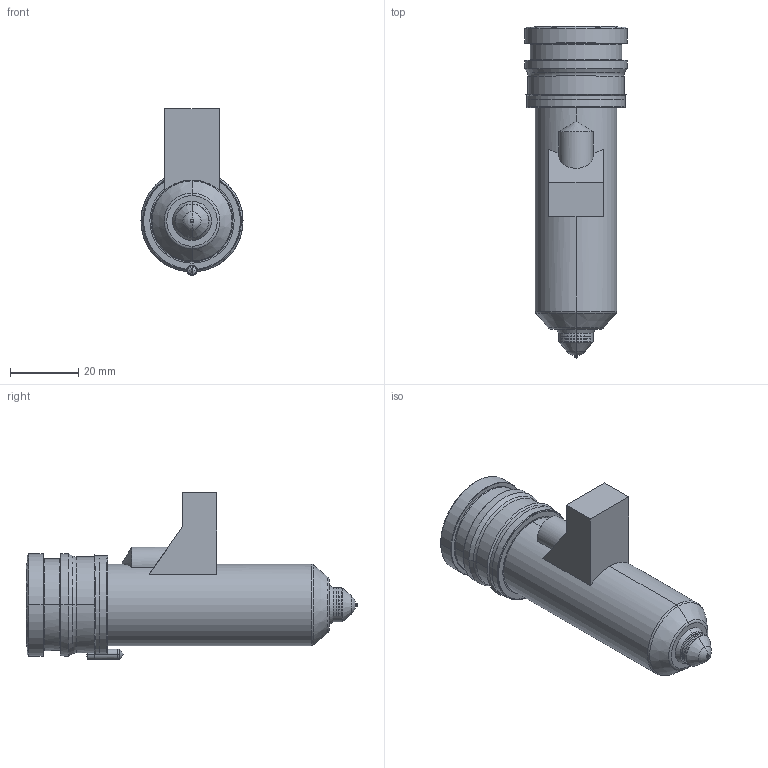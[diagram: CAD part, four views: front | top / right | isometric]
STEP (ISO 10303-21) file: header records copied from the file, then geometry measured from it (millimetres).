
FILE_DESCRIPTION((''),'2;1');
FILE_NAME('MPN-10-29-VX10-076-M','2026-02-05T12:56:31',('UPTIO'),('Thermoplay S.p.A.'),'CREO PARAMETRIC BY PTC INC, 2023494','CREO PARAMETRIC BY PTC INC, 2023494','');
FILE_SCHEMA(('CONFIG_CONTROL_DESIGN','SHAPE_APPEARANCE_LAYERS_GROUPS'));
Length unit declared in the file: millimetre
Products named in the file (1): MPN-10-29-VX10-076-M
Bounding box: 30 x 97.5 x 49 mm (x, y, z)
Volume: 31055.1 mm3; surface area: 32021.9 mm2
Topology: 3 solids, 5 shells, 547 faces, 1387 edges, 846 vertices
Faces by surface type: cylinder 179, plane 147, torus 71, bspline 70, cone 68, sphere 8, extrusion 4
Entity records: 27683 total; most frequent: CARTESIAN_POINT 11718, ORIENTED_EDGE 2760, DIRECTION 2638, EDGE_CURVE 1380, AXIS2_PLACEMENT_3D 1050, VERTEX_POINT 846, EDGE_LOOP 576, CIRCLE 576
